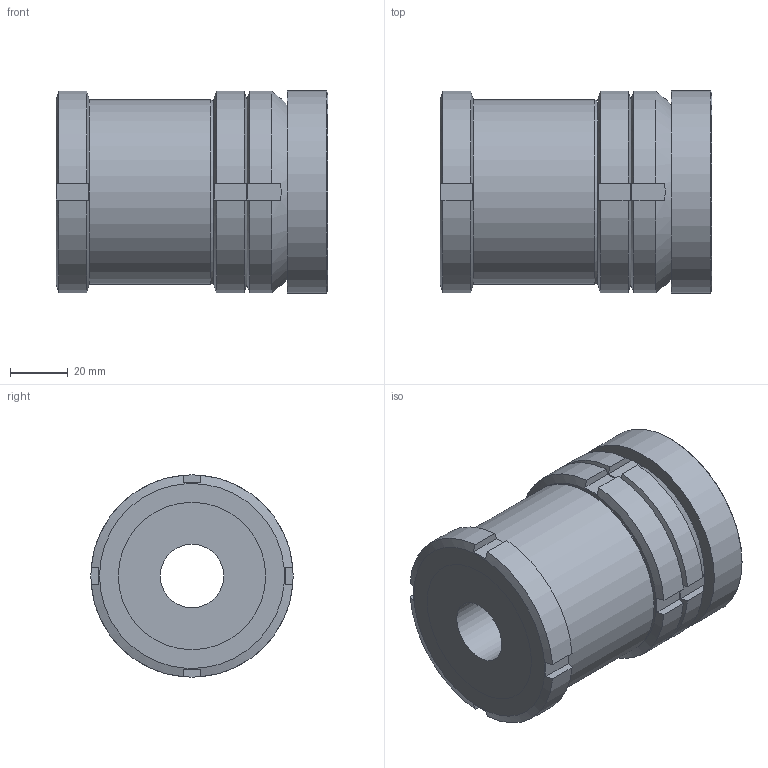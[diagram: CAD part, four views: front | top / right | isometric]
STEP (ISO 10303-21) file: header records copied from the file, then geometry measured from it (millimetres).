
FILE_DESCRIPTION( ( 'STEP AP203' ), '1' );
FILE_NAME( 'C:/Temp/Ganter_Step_05_03_2020/data/3_2/gn350_5/gn350_5_ni/Stainless Steel-Levelling set GN 350.5-70-22-94-NI (0-0).stp', '2020-03-13T05:28:56', ( 'License CC BY-ND 4.0' ), ( 'CADENAS' ), ' ', 'PARTsolutions', ' ' );
FILE_SCHEMA( ( 'CONFIG_CONTROL_DESIGN' ) );
Length unit declared in the file: millimetre
Products named in the file (5): Stainless Steel-Levelling set GN 350.5-70-22-94-NI (0-0); _Levelling set GN 350.5-70-22-94-ST-G; _Levelling set GN 350.5-70-22-94-ST-K; _Levelling set GN 350.5-70-22-94-ST-P(0); _Levelling set GN 350.5-70-22-61-ST-KM
Assembly tree (4 placements, depth 2):
  Stainless Steel-Levelling set GN 350.5-70-22-94-NI (0-0)
    _Levelling set GN 350.5-70-22-94-ST-G
    _Levelling set GN 350.5-70-22-94-ST-K
    _Levelling set GN 350.5-70-22-94-ST-P(0)
    _Levelling set GN 350.5-70-22-61-ST-KM
Bounding box: 94 x 70 x 70 mm (x, y, z)
Volume: 289289.2 mm3; surface area: 68461.1 mm2
Topology: 4 solids, 4 shells, 85 faces, 211 edges, 140 vertices
Faces by surface type: plane 50, cylinder 24, cone 9, sphere 2
Full cylindrical faces by diameter (mm): 22 x1, 40 x1, 43.529 x1, 44.5 x1, 48.376 x1, 48.917 x1, 49 x1, 50 x1, 51 x2, 64 x1, 70 x1
Entity records: 2696 total; most frequent: CARTESIAN_POINT 698, DIRECTION 368, ORIENTED_EDGE 356, EDGE_CURVE 178, AXIS2_PLACEMENT_3D 160, VERTEX_POINT 130, EDGE_LOOP 122, FACE_OUTER_BOUND 99
